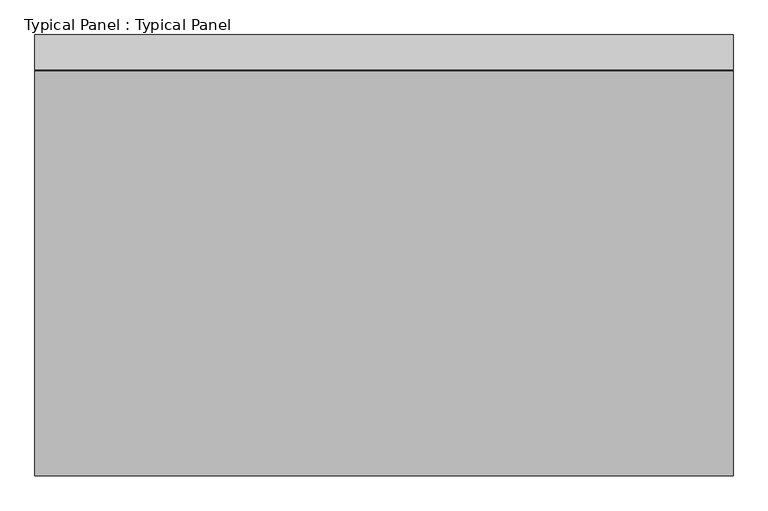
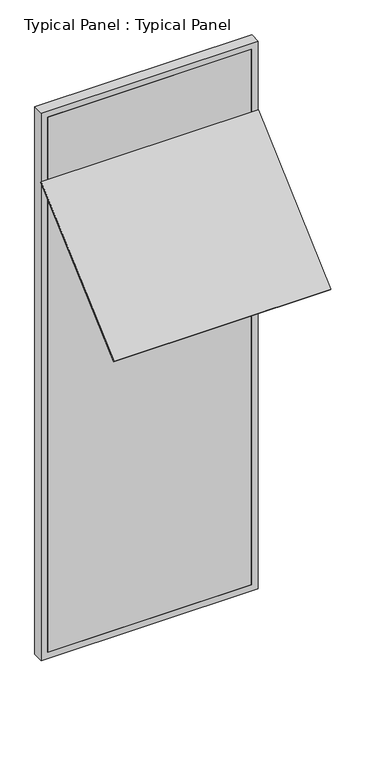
"""IFC4 building model written with IfcOpenShell, lengths in millimetres: plate geometry, Typical Panel : Typical Panel."""

from ifc_helpers import new_model, si_unit, frame, origin, place, context, project, spatial, polyline, outline, extrude, source, transform, mapped, element, save


def typical_panel_typical_panel_77cb67d9(model_context):
    return source(origin(), model_context, "Body", "SweptSolid", [
        extrude(outline(polyline([(0.0, -1170.0), (0.0, 0.0), (1500.0, 0.0), (1500.0, -1170.0), (0.0, -1170.0)])), frame((750.0, -867.7881397, 2709.6857423), z_axis=(0.0, -0.6691306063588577, 0.7431448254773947), x_axis=(-1.0, 0.0, 0.0)), (0.0, 0.0, 1.0), 10.0),
        extrude(outline(polyline([(0.0, -750.0), (0.0, 750.0), (4000.0, 750.0), (4000.0, -750.0), (0.0, -750.0)]), holes=[polyline([(45.0, 705.0), (45.0, -705.0), (3955.0, -705.0), (3955.0, 705.0), (45.0, 705.0)])]), frame((0.0, -1.5797986, 0.0), z_axis=(0.0, 1.0, 0.0), x_axis=(0.0, 0.0, 1.0)), (0.0, 0.0, 1.0), 75.0),
        extrude(outline(polyline([(705.0, -1.5797986), (-705.0, -1.5797986), (-705.0, 13.4202014), (705.0, 13.4202014), (705.0, -1.5797986)])), frame((0.0, 0.0, 45.0), z_axis=(0.0, 0.0, 1.0), x_axis=(1.0, 0.0, 0.0)), (0.0, 0.0, 1.0), 3910.0),
    ])


if __name__ == "__main__":
    model = new_model("IFC4")
    model_context = context("Model", 3, world=origin())
    ifc_project = project(units=[si_unit("LENGTHUNIT", "METRE", prefix="MILLI")], contexts=[model_context])
    site = spatial("IfcSite", under=ifc_project)
    building = spatial("IfcBuilding", under=site)
    placement = place(None, origin())
    typical_panel_typical_panel_shape = typical_panel_typical_panel_77cb67d9(model_context)
    element("IfcPlate", 1, ObjectType="Typical Panel : Typical Panel", at=placement, inside=building, context=model_context, shape_type="MappedRepresentation", body=[
        mapped(typical_panel_typical_panel_shape, transform((0.0, 0.0, 0.0), x_axis=(1.0, 0.0, 0.0), y_axis=(0.0, 1.0, 0.0), z_axis=(0.0, 0.0, 1.0))),
    ])
    save(model, "model.ifc")
